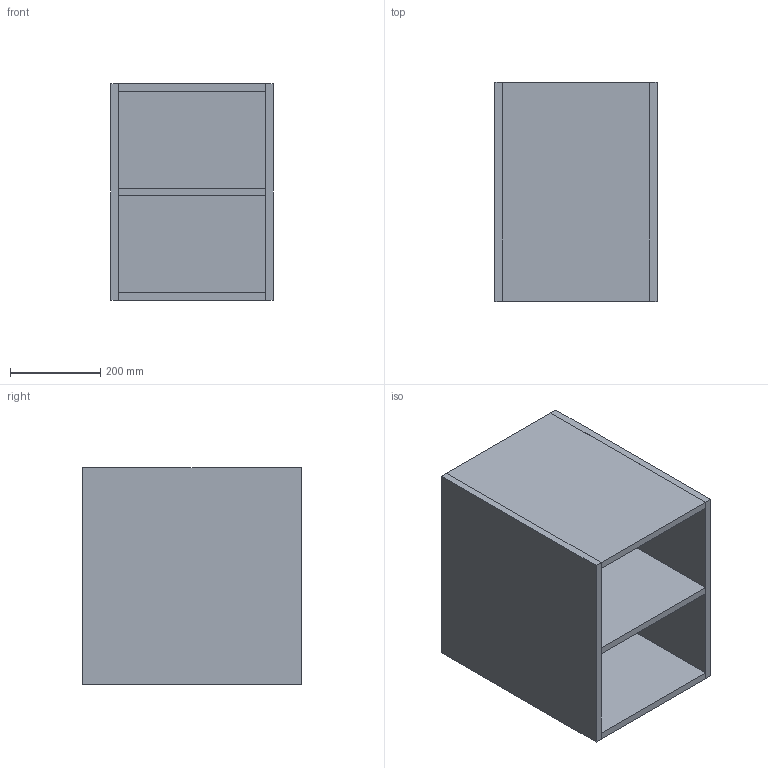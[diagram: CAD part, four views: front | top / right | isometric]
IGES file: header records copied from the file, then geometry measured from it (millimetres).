
Start section: Data from Parasolid IGES Translator 19.0.9, Copyright(c) 2006 Siemens PL M Software. All Rights Reserved.
Global section: file name: noorth-SI-H 48 D 51 W 36_8590.igs; native system: By Siemens PLM Incorporated; preprocessor: XPlus GENERIC/IGES 19.0.9; author: Noname; organization: Noname; date: 20200601.111829; units: metre
Bounding box: 360.01 x 486.06 x 480 mm (x, y, z)
Volume: 15537107.5 mm3; surface area: 2327781.9 mm2
Topology: 6 solids, 6 shells, 36 faces, 72 edges, 48 vertices
Faces by surface type: plane 36
